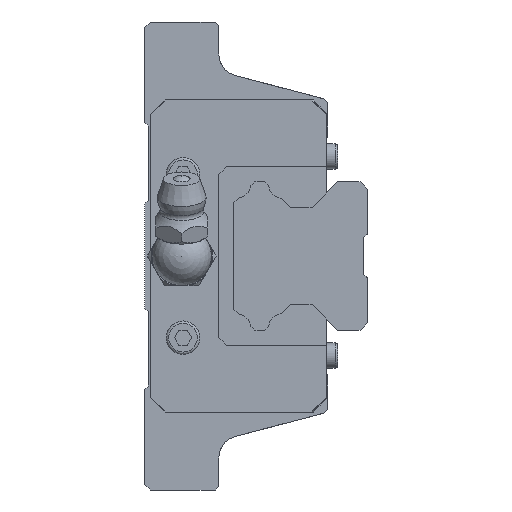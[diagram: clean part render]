
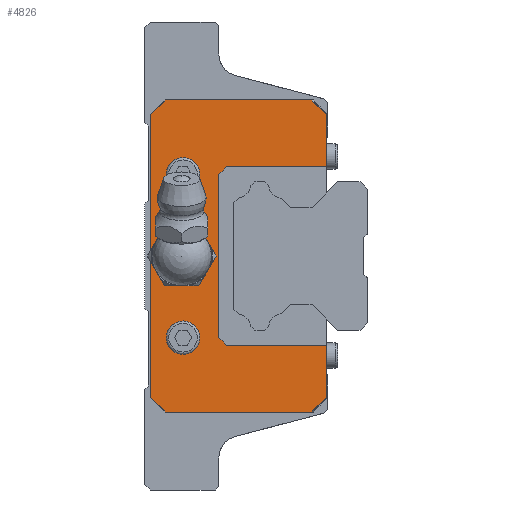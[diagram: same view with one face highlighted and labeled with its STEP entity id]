
A CAD part, left-side view. The second image highlights one B-rep face of the part: STEP entity #4826.
In plain terms, the highlighted planar face has unit normal (-1, 0, 0).
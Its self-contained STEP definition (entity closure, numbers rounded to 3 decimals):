
#214=CIRCLE('',#5233,3.);
#215=CIRCLE('',#5234,2.25);
#216=CIRCLE('',#5235,2.25);
#354=LINE('',#7041,#858);
#379=LINE('',#7097,#883);
#391=LINE('',#7123,#895);
#427=LINE('',#7199,#931);
#451=LINE('',#7245,#955);
#475=LINE('',#7301,#979);
#481=LINE('',#7318,#985);
#630=LINE('',#7735,#1134);
#632=LINE('',#7738,#1136);
#639=LINE('',#7763,#1143);
#640=LINE('',#7766,#1144);
#641=LINE('',#7767,#1145);
#642=LINE('',#7769,#1146);
#643=LINE('',#7771,#1147);
#858=VECTOR('',#5693,1000.);
#883=VECTOR('',#5726,1000.);
#895=VECTOR('',#5746,1000.);
#931=VECTOR('',#5802,1000.);
#955=VECTOR('',#5848,1000.);
#979=VECTOR('',#5888,1000.);
#985=VECTOR('',#5900,1000.);
#1134=VECTOR('',#6237,1000.);
#1136=VECTOR('',#6241,1000.);
#1143=VECTOR('',#6264,1000.);
#1144=VECTOR('',#6265,1000.);
#1145=VECTOR('',#6266,1000.);
#1146=VECTOR('',#6267,1000.);
#1147=VECTOR('',#6268,1000.);
#2087=ORIENTED_EDGE('',*,*,#3101,.T.);
#2088=ORIENTED_EDGE('',*,*,#3102,.F.);
#2089=ORIENTED_EDGE('',*,*,#3103,.F.);
#2090=ORIENTED_EDGE('',*,*,#3104,.T.);
#2091=ORIENTED_EDGE('',*,*,#3105,.T.);
#2092=ORIENTED_EDGE('',*,*,#2884,.F.);
#2093=ORIENTED_EDGE('',*,*,#3089,.T.);
#2094=ORIENTED_EDGE('',*,*,#2792,.F.);
#2095=ORIENTED_EDGE('',*,*,#2779,.F.);
#2096=ORIENTED_EDGE('',*,*,#2856,.F.);
#2097=ORIENTED_EDGE('',*,*,#2752,.F.);
#2098=ORIENTED_EDGE('',*,*,#2830,.F.);
#2099=ORIENTED_EDGE('',*,*,#3091,.T.);
#2100=ORIENTED_EDGE('',*,*,#2892,.F.);
#2101=ORIENTED_EDGE('',*,*,#3106,.T.);
#2102=ORIENTED_EDGE('',*,*,#3107,.T.);
#2103=ORIENTED_EDGE('',*,*,#3108,.T.);
#2752=EDGE_CURVE('',#3389,#3390,#354,.T.);
#2779=EDGE_CURVE('',#3416,#3417,#379,.T.);
#2792=EDGE_CURVE('',#3417,#3427,#391,.T.);
#2830=EDGE_CURVE('',#3456,#3389,#427,.T.);
#2856=EDGE_CURVE('',#3390,#3416,#451,.T.);
#2884=EDGE_CURVE('',#3491,#3492,#475,.T.);
#2892=EDGE_CURVE('',#3499,#3500,#481,.T.);
#3089=EDGE_CURVE('',#3491,#3427,#630,.T.);
#3091=EDGE_CURVE('',#3456,#3500,#632,.T.);
#3101=EDGE_CURVE('',#3649,#3649,#214,.T.);
#3102=EDGE_CURVE('',#3650,#3650,#215,.F.);
#3103=EDGE_CURVE('',#3651,#3651,#216,.F.);
#3104=EDGE_CURVE('',#3652,#3653,#639,.T.);
#3105=EDGE_CURVE('',#3653,#3492,#640,.T.);
#3106=EDGE_CURVE('',#3499,#3654,#641,.T.);
#3107=EDGE_CURVE('',#3654,#3655,#642,.T.);
#3108=EDGE_CURVE('',#3655,#3652,#643,.T.);
#3389=VERTEX_POINT('',#7040);
#3390=VERTEX_POINT('',#7042);
#3416=VERTEX_POINT('',#7096);
#3417=VERTEX_POINT('',#7098);
#3427=VERTEX_POINT('',#7124);
#3456=VERTEX_POINT('',#7198);
#3491=VERTEX_POINT('',#7300);
#3492=VERTEX_POINT('',#7302);
#3499=VERTEX_POINT('',#7317);
#3500=VERTEX_POINT('',#7319);
#3649=VERTEX_POINT('',#7758);
#3650=VERTEX_POINT('',#7760);
#3651=VERTEX_POINT('',#7762);
#3652=VERTEX_POINT('',#7764);
#3653=VERTEX_POINT('',#7765);
#3654=VERTEX_POINT('',#7768);
#3655=VERTEX_POINT('',#7770);
#3955=EDGE_LOOP('',(#2087));
#3956=EDGE_LOOP('',(#2088));
#3957=EDGE_LOOP('',(#2089));
#3958=EDGE_LOOP('',(#2090,#2091,#2092,#2093,#2094,#2095,#2096,#2097,#2098,
#2099,#2100,#2101,#2102,#2103));
#4304=FACE_BOUND('',#3955,.T.);
#4305=FACE_BOUND('',#3956,.T.);
#4306=FACE_BOUND('',#3957,.T.);
#4307=FACE_BOUND('',#3958,.T.);
#4596=PLANE('',#5232);
#4826=ADVANCED_FACE('',(#4304,#4305,#4306,#4307),#4596,.F.);
#5232=AXIS2_PLACEMENT_3D('',#7756,#6256,#6257);
#5233=AXIS2_PLACEMENT_3D('',#7757,#6258,#6259);
#5234=AXIS2_PLACEMENT_3D('',#7759,#6260,#6261);
#5235=AXIS2_PLACEMENT_3D('',#7761,#6262,#6263);
#5693=DIRECTION('',(0.,0.707,0.707));
#5726=DIRECTION('',(0.,-0.707,0.707));
#5746=DIRECTION('',(0.,-1.,0.));
#5802=DIRECTION('',(0.,1.,0.));
#5848=DIRECTION('',(0.,0.,1.));
#5888=DIRECTION('',(0.,0.,-1.));
#5900=DIRECTION('',(0.,0.,-1.));
#6237=DIRECTION('',(0.,0.707,0.707));
#6241=DIRECTION('',(0.,-0.707,0.707));
#6256=DIRECTION('',(1.,0.,0.));
#6257=DIRECTION('',(0.,0.,-1.));
#6258=DIRECTION('',(1.,0.,0.));
#6259=DIRECTION('',(0.,0.,-1.));
#6260=DIRECTION('',(1.,0.,0.));
#6261=DIRECTION('',(0.,0.,-1.));
#6262=DIRECTION('',(1.,0.,0.));
#6263=DIRECTION('',(0.,0.,-1.));
#6264=DIRECTION('',(0.,-0.707,0.707));
#6265=DIRECTION('',(0.,-1.,0.));
#6266=DIRECTION('',(0.,1.,0.));
#6267=DIRECTION('',(0.,0.707,0.707));
#6268=DIRECTION('',(0.,0.,1.));
#7040=CARTESIAN_POINT('',(-36.,23.2,-21.));
#7041=CARTESIAN_POINT('',(-36.,23.2,-21.));
#7042=CARTESIAN_POINT('',(-36.,25.2,-19.));
#7096=CARTESIAN_POINT('',(-36.,25.2,19.));
#7097=CARTESIAN_POINT('',(-36.,25.2,19.));
#7098=CARTESIAN_POINT('',(-36.,23.2,21.));
#7123=CARTESIAN_POINT('',(-36.,26.,21.));
#7124=CARTESIAN_POINT('',(-36.,3.517,21.));
#7198=CARTESIAN_POINT('',(-36.,3.517,-21.));
#7199=CARTESIAN_POINT('',(-36.,0.,-21.));
#7245=CARTESIAN_POINT('',(-36.,25.2,-19.));
#7300=CARTESIAN_POINT('',(-36.,1.517,19.));
#7301=CARTESIAN_POINT('',(-36.,1.517,16.));
#7302=CARTESIAN_POINT('',(-36.,1.517,12.));
#7317=CARTESIAN_POINT('',(-36.,1.517,-12.));
#7318=CARTESIAN_POINT('',(-36.,1.517,16.));
#7319=CARTESIAN_POINT('',(-36.,1.517,-19.));
#7735=CARTESIAN_POINT('',(-36.,3.517,21.));
#7738=CARTESIAN_POINT('',(-36.,1.517,-19.));
#7756=CARTESIAN_POINT('',(-36.,0.,0.));
#7757=CARTESIAN_POINT('',(-36.,21.,0.));
#7758=CARTESIAN_POINT('',(-36.,21.,-3.));
#7759=CARTESIAN_POINT('',(-36.,20.817,11.));
#7760=CARTESIAN_POINT('',(-36.,20.817,8.75));
#7761=CARTESIAN_POINT('',(-36.,20.817,-11.));
#7762=CARTESIAN_POINT('',(-36.,20.817,-13.25));
#7763=CARTESIAN_POINT('',(-36.,16.,11.));
#7764=CARTESIAN_POINT('',(-36.,16.,11.));
#7765=CARTESIAN_POINT('',(-36.,15.,12.));
#7766=CARTESIAN_POINT('',(-36.,15.,12.));
#7767=CARTESIAN_POINT('',(-36.,1.517,-12.));
#7768=CARTESIAN_POINT('',(-36.,15.,-12.));
#7769=CARTESIAN_POINT('',(-36.,15.,-12.));
#7770=CARTESIAN_POINT('',(-36.,16.,-11.));
#7771=CARTESIAN_POINT('',(-36.,16.,-11.));
